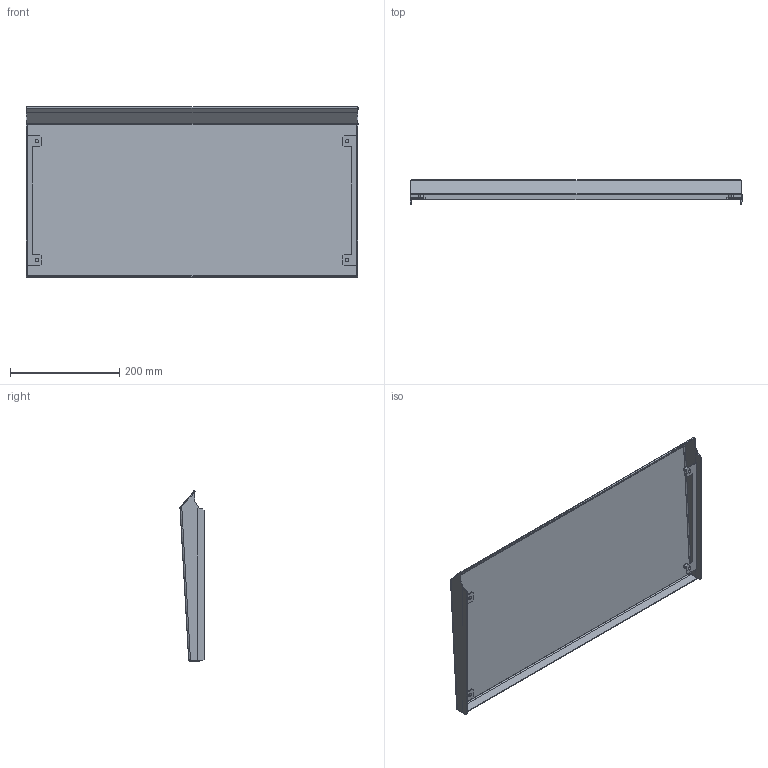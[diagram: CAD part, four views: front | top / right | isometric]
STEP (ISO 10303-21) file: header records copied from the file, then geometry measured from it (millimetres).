
FILE_DESCRIPTION (( 'STEP AP203' ), '1' );
FILE_NAME ('ECTT060030.STEP', '2020-04-07T14:08:05', ( '' ), ( '' ), 'SwSTEP 2.0', 'SolidWorks 2019', '' );
FILE_SCHEMA (( 'CONFIG_CONTROL_DESIGN' ));
Length unit declared in the file: millimetre
Products named in the file (1): ECTT060030
Bounding box: 607 x 43.92 x 311.43 mm (x, y, z)
Volume: 331667.1 mm3; surface area: 482076 mm2
Topology: 1 solids, 1 shells, 138 faces, 344 edges, 216 vertices
Faces by surface type: plane 116, cylinder 18, bspline 4
Entity records: 4249 total; most frequent: CARTESIAN_POINT 919, ORIENTED_EDGE 688, DIRECTION 626, EDGE_CURVE 344, LINE 300, VECTOR 300, VERTEX_POINT 216, AXIS2_PLACEMENT_3D 163
